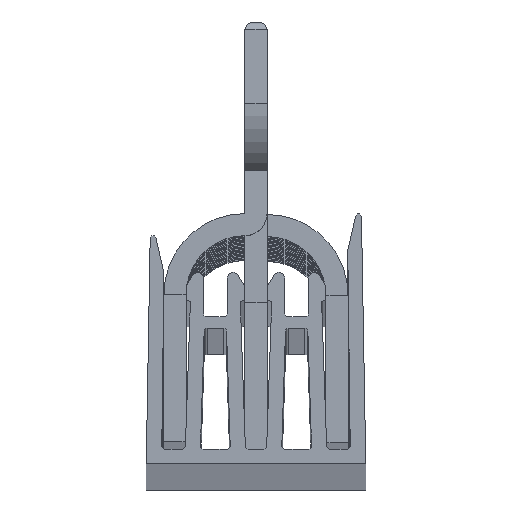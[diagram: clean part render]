
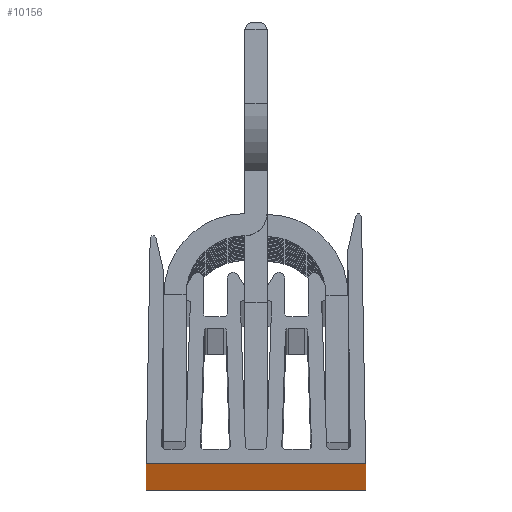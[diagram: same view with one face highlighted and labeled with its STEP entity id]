
A CAD part, top view. The second image highlights one B-rep face of the part: STEP entity #10156.
In plain terms, the highlighted planar face has unit normal (0, -1, 0).
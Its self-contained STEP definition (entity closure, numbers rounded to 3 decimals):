
#10044 = VERTEX_POINT ( 'NONE', #56215 ) ;
#10045 = ORIENTED_EDGE ( 'NONE', *, *, #10046, .F. ) ;
#10046 = EDGE_CURVE ( 'NONE', #10205, #10044, #56213, .T. ) ;
#10130 = ORIENTED_EDGE ( 'NONE', *, *, #10204, .T. ) ;
#10156 = ADVANCED_FACE ( 'NONE', ( #56514 ), #56487, .F. ) ;
#10157 = EDGE_LOOP ( 'NONE', ( #10159, #10162, #10045, #10130 ) ) ;
#10159 = ORIENTED_EDGE ( 'NONE', *, *, #10160, .T. ) ;
#10160 = EDGE_CURVE ( 'NONE', #10202, #10161, #56586, .T. ) ;
#10161 = VERTEX_POINT ( 'NONE', #56582 ) ;
#10162 = ORIENTED_EDGE ( 'NONE', *, *, #10164, .F. ) ;
#10164 = EDGE_CURVE ( 'NONE', #10044, #10161, #56574, .T. ) ;
#10202 = VERTEX_POINT ( 'NONE', #56645 ) ;
#10204 = EDGE_CURVE ( 'NONE', #10205, #10202, #56751, .T. ) ;
#10205 = VERTEX_POINT ( 'NONE', #56745 ) ;
#56210 = DIRECTION ( 'NONE',  ( 1., 0., 0. ) ) ;
#56211 = VECTOR ( 'NONE', #56210, 1000. ) ;
#56212 = CARTESIAN_POINT ( 'NONE',  ( 0., 0., 508. ) ) ;
#56213 = LINE ( 'NONE', #56212, #56211 ) ;
#56215 = CARTESIAN_POINT ( 'NONE',  ( 7.45, 0., 508. ) ) ;
#56484 = DIRECTION ( 'NONE',  ( 0., 1., 0. ) ) ;
#56485 = CARTESIAN_POINT ( 'NONE',  ( 0., 0., 508. ) ) ;
#56486 = AXIS2_PLACEMENT_3D ( 'NONE', #56485, #56484, #56590 ) ;
#56487 = PLANE ( 'NONE',  #56486 ) ;
#56514 = FACE_OUTER_BOUND ( 'NONE', #10157, .T. ) ;
#56569 = DIRECTION ( 'NONE',  ( 0., 0., -1. ) ) ;
#56571 = VECTOR ( 'NONE', #56569, 1000. ) ;
#56572 = CARTESIAN_POINT ( 'NONE',  ( 7.45, 0., 508. ) ) ;
#56574 = LINE ( 'NONE', #56572, #56571 ) ;
#56582 = CARTESIAN_POINT ( 'NONE',  ( 7.45, 0., -508. ) ) ;
#56583 = DIRECTION ( 'NONE',  ( 1., 0., 0. ) ) ;
#56584 = VECTOR ( 'NONE', #56583, 1000. ) ;
#56585 = CARTESIAN_POINT ( 'NONE',  ( 0., 0., -508. ) ) ;
#56586 = LINE ( 'NONE', #56585, #56584 ) ;
#56590 = DIRECTION ( 'NONE',  ( 0., 0., 1. ) ) ;
#56645 = CARTESIAN_POINT ( 'NONE',  ( -7.45, 0., -508. ) ) ;
#56745 = CARTESIAN_POINT ( 'NONE',  ( -7.45, 0., 508. ) ) ;
#56747 = DIRECTION ( 'NONE',  ( 0., 0., -1. ) ) ;
#56749 = VECTOR ( 'NONE', #56747, 1000. ) ;
#56750 = CARTESIAN_POINT ( 'NONE',  ( -7.45, 0., 508. ) ) ;
#56751 = LINE ( 'NONE', #56750, #56749 ) ;
